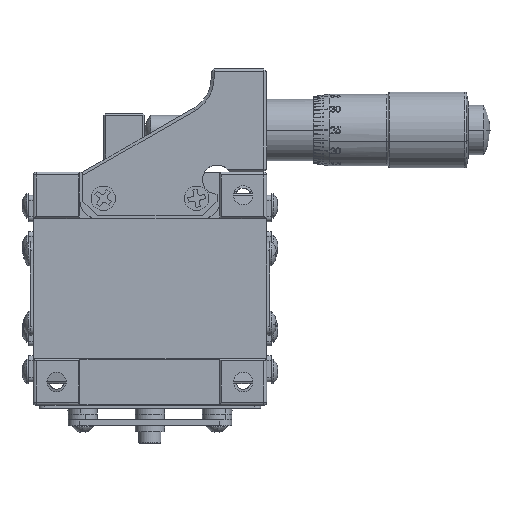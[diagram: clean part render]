
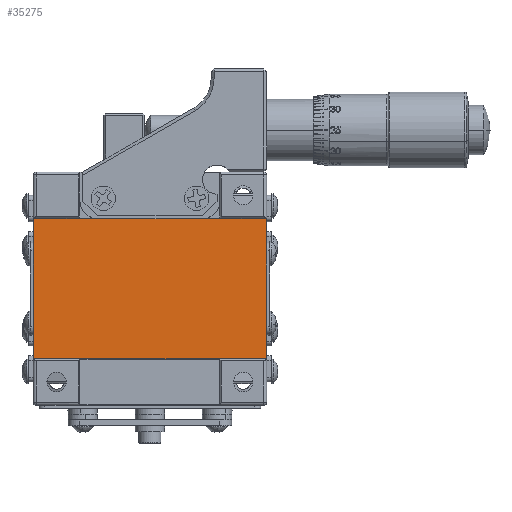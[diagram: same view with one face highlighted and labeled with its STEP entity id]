
A CAD part, front view. The second image highlights one B-rep face of the part: STEP entity #35275.
In plain terms, the highlighted planar face has unit normal (0, -1, 0).
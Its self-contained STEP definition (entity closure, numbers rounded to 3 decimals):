
#1959 = VECTOR ( 'NONE', #20207, 1000. ) ;
#2394 = DIRECTION ( 'NONE',  ( -1., 0., 0. ) ) ;
#2645 = VERTEX_POINT ( 'NONE', #49134 ) ;
#3191 = CARTESIAN_POINT ( 'NONE',  ( 20.189, -13.503, -12. ) ) ;
#3743 = ORIENTED_EDGE ( 'NONE', *, *, #38722, .T. ) ;
#3804 = LINE ( 'NONE', #55758, #1959 ) ;
#7487 = LINE ( 'NONE', #30064, #66924 ) ;
#7932 = DIRECTION ( 'NONE',  ( -1., 0., 0. ) ) ;
#8238 = EDGE_CURVE ( 'NONE', #35116, #45980, #23632, .T. ) ;
#8370 = CARTESIAN_POINT ( 'NONE',  ( 20.231, -13.503, -12. ) ) ;
#8482 = LINE ( 'NONE', #8370, #69816 ) ;
#15163 = DIRECTION ( 'NONE',  ( 0., 0., 1. ) ) ;
#16501 = ORIENTED_EDGE ( 'NONE', *, *, #16788, .T. ) ;
#16788 = EDGE_CURVE ( 'NONE', #22072, #2645, #3804, .T. ) ;
#19966 = EDGE_CURVE ( 'NONE', #75479, #45980, #8482, .T. ) ;
#20207 = DIRECTION ( 'NONE',  ( -1., 0., 0. ) ) ;
#22072 = VERTEX_POINT ( 'NONE', #65733 ) ;
#23632 = LINE ( 'NONE', #40466, #35695 ) ;
#24542 = DIRECTION ( 'NONE',  ( -1., 0., 0. ) ) ;
#26137 = LINE ( 'NONE', #60154, #71708 ) ;
#26354 = VECTOR ( 'NONE', #15163, 1000. ) ;
#27129 = EDGE_LOOP ( 'NONE', ( #46269, #37546, #16501, #72172, #3743, #60283 ) ) ;
#29998 = CARTESIAN_POINT ( 'NONE',  ( -19.728, -13.503, 12. ) ) ;
#30064 = CARTESIAN_POINT ( 'NONE',  ( 20.231, -13.503, 12. ) ) ;
#30998 = FACE_OUTER_BOUND ( 'NONE', #27129, .T. ) ;
#35116 = VERTEX_POINT ( 'NONE', #29998 ) ;
#35275 = ADVANCED_FACE ( 'NONE', ( #30998 ), #73120, .F. ) ;
#35695 = VECTOR ( 'NONE', #58398, 1000. ) ;
#36051 = DIRECTION ( 'NONE',  ( -1., 0., 0. ) ) ;
#37529 = CARTESIAN_POINT ( 'NONE',  ( 20.231, -13.503, -12. ) ) ;
#37546 = ORIENTED_EDGE ( 'NONE', *, *, #64986, .T. ) ;
#38722 = EDGE_CURVE ( 'NONE', #42563, #35116, #7487, .T. ) ;
#40466 = CARTESIAN_POINT ( 'NONE',  ( -19.728, -13.503, 12. ) ) ;
#42563 = VERTEX_POINT ( 'NONE', #46817 ) ;
#43534 = DIRECTION ( 'NONE',  ( 0., 1., 0. ) ) ;
#44099 = LINE ( 'NONE', #3191, #26354 ) ;
#45980 = VERTEX_POINT ( 'NONE', #64551 ) ;
#46269 = ORIENTED_EDGE ( 'NONE', *, *, #19966, .F. ) ;
#46817 = CARTESIAN_POINT ( 'NONE',  ( -8.769, -13.503, 12. ) ) ;
#49134 = CARTESIAN_POINT ( 'NONE',  ( 9.231, -13.503, 12. ) ) ;
#55758 = CARTESIAN_POINT ( 'NONE',  ( 20.231, -13.503, 12. ) ) ;
#58398 = DIRECTION ( 'NONE',  ( 0., 0., -1. ) ) ;
#60154 = CARTESIAN_POINT ( 'NONE',  ( 20.231, -13.503, 12. ) ) ;
#60283 = ORIENTED_EDGE ( 'NONE', *, *, #8238, .T. ) ;
#62232 = AXIS2_PLACEMENT_3D ( 'NONE', #37529, #43534, #7932 ) ;
#64551 = CARTESIAN_POINT ( 'NONE',  ( -19.728, -13.503, -12. ) ) ;
#64986 = EDGE_CURVE ( 'NONE', #75479, #22072, #44099, .T. ) ;
#65733 = CARTESIAN_POINT ( 'NONE',  ( 20.189, -13.503, 12. ) ) ;
#66924 = VECTOR ( 'NONE', #36051, 1000. ) ;
#69816 = VECTOR ( 'NONE', #2394, 1000. ) ;
#71708 = VECTOR ( 'NONE', #24542, 1000. ) ;
#72172 = ORIENTED_EDGE ( 'NONE', *, *, #74672, .T. ) ;
#73120 = PLANE ( 'NONE',  #62232 ) ;
#74672 = EDGE_CURVE ( 'NONE', #2645, #42563, #26137, .T. ) ;
#75479 = VERTEX_POINT ( 'NONE', #75835 ) ;
#75835 = CARTESIAN_POINT ( 'NONE',  ( 20.189, -13.503, -12. ) ) ;
